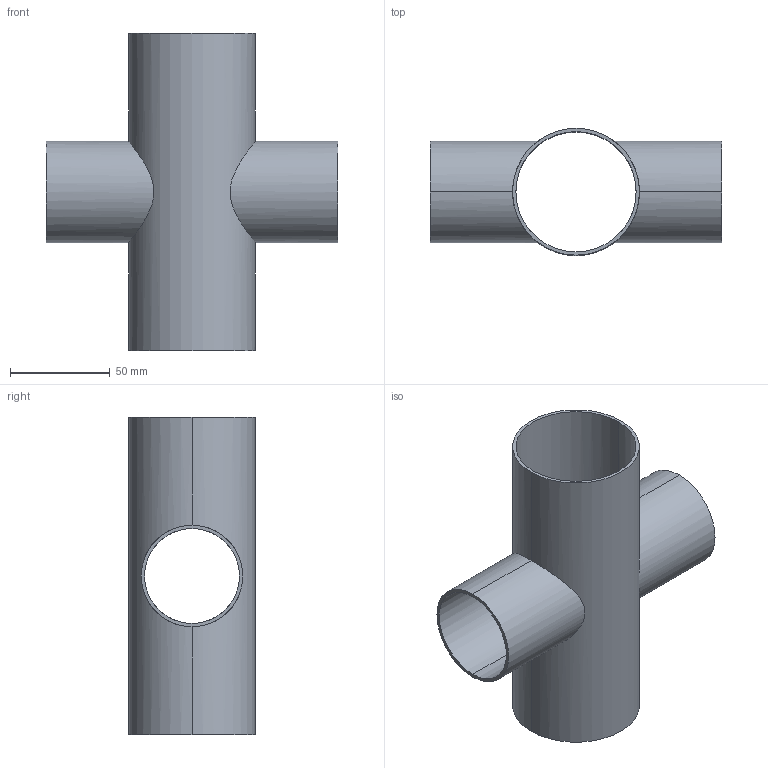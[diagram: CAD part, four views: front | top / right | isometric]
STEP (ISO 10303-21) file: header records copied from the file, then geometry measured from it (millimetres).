
FILE_DESCRIPTION (( 'STEP AP214' ), '1' );
FILE_NAME ('TE9RWWWW6L2.5x2.0-...STEP', '2016-05-22T04:20:26', ( 'eran' ), ( '' ), 'SwSTEP 2.0', 'SolidWorks 2016', '' );
FILE_SCHEMA (( 'AUTOMOTIVE_DESIGN' ));
Length unit declared in the file: millimetre
Products named in the file (1): TE9RWWWW6L2.5x2.0-..
Bounding box: 146.05 x 63.5 x 158.75 mm (x, y, z)
Volume: 68352.7 mm3; surface area: 83937.1 mm2
Topology: 1 solids, 1 shells, 16 faces, 40 edges, 24 vertices
Faces by surface type: cylinder 12, plane 4
Entity records: 1026 total; most frequent: CARTESIAN_POINT 601, DIRECTION 82, ORIENTED_EDGE 80, EDGE_CURVE 40, AXIS2_PLACEMENT_3D 33, VERTEX_POINT 24, EDGE_LOOP 20, ADVANCED_FACE 16
